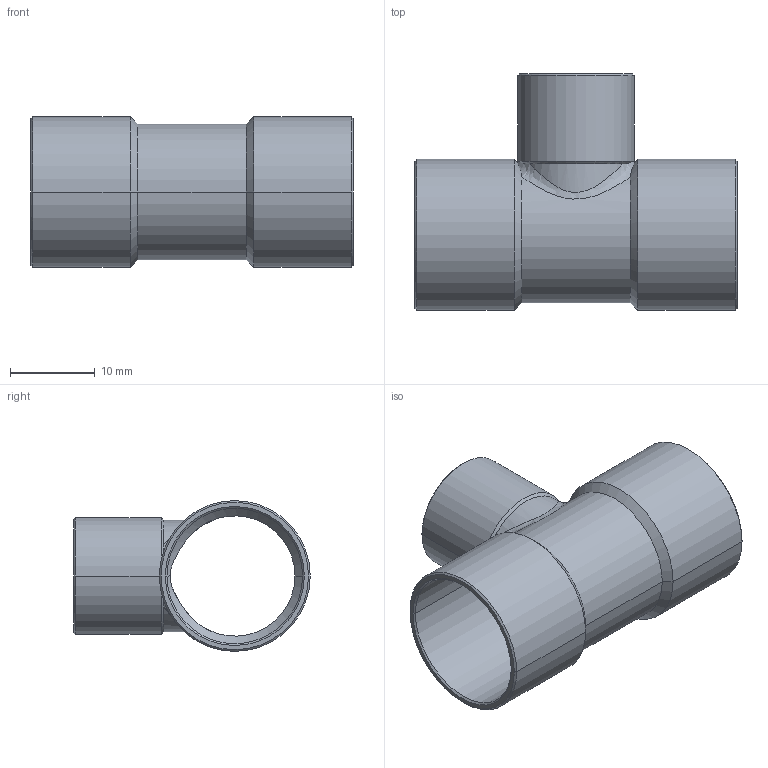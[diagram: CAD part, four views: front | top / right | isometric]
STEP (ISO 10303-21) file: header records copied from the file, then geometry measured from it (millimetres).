
FILE_DESCRIPTION((''),'2;1');
FILE_NAME('P:\Bouwmaten\z-maattekeningen 3D\5000\5130\5130161216.stp','2005-10-26T11:53:10',('Kris'),(''),'Autodesk Inventor 8','Autodesk Inventor 8','');
FILE_SCHEMA(('AUTOMOTIVE_DESIGN { 1 0 10303 214 1 1 1 1 }'));
Length unit declared in the file: millimetre
Products named in the file (1): 5130161216
Bounding box: 38 x 27.9 x 17.8 mm (x, y, z)
Volume: 2054.8 mm3; surface area: 4802.1 mm2
Topology: 1 solids, 1 shells, 49 faces, 116 edges, 68 vertices
Faces by surface type: cone 20, cylinder 16, bspline 10, plane 3
Entity records: 2082 total; most frequent: CARTESIAN_POINT 979, ORIENTED_EDGE 232, DIRECTION 216, EDGE_CURVE 116, AXIS2_PLACEMENT_3D 89, VERTEX_POINT 68, EDGE_LOOP 52, CIRCLE 49
